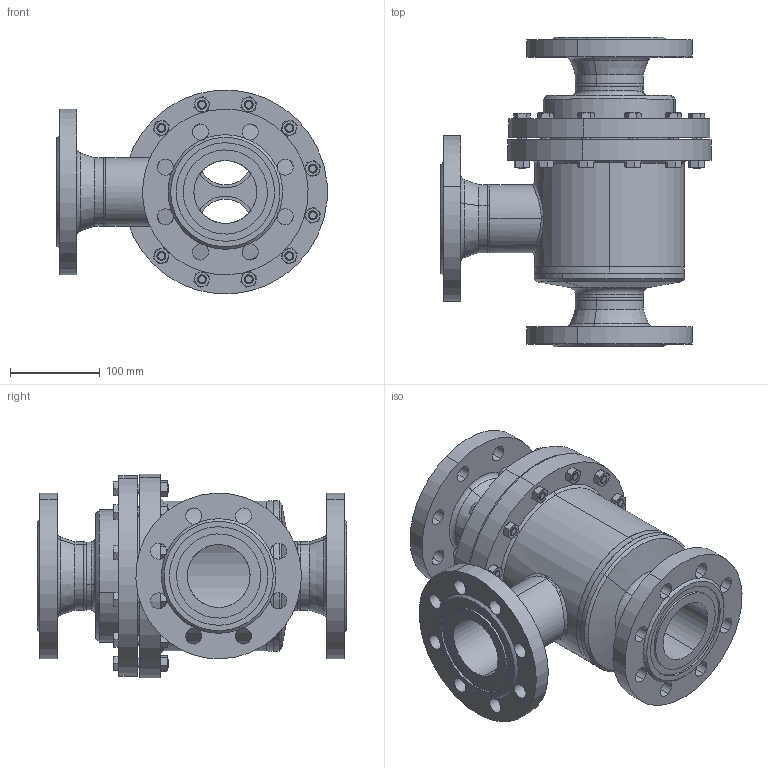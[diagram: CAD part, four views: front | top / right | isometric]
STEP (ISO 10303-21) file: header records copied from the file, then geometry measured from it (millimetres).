
FILE_DESCRIPTION (( 'STEP AP214' ), '1' );
FILE_NAME ('TR47020B17-DN65_DIN_PS25.STEP', '2005-08-10T11:24:30', ( 'Herr Grams' ), ( 'AWP GmbH' ), 'SwSTEP 2.0', 'SolidWorks 2002296', '' );
FILE_SCHEMA (( 'AUTOMOTIVE_DESIGN' ));
Length unit declared in the file: millimetre
Products named in the file (21): TR47020B17-DN65_DIN_PS25; TR65-1_Standard; TR65-2_Standard; TR65-3_Standard; TR47000B17-DN65_R1_PS25_Standard; Andruckplatte47050-17-DN65-80_Standard; Deckel47000B17_DN65_PS25_R1_Standard; Führungsring47050-17-DN65-80_Standard; Geh-kpl47000B17-DN65_PS25_R1_Standard; Boden47000E_DN65-100_PS40_DN 65; Geh47000E17_DN65_PS40_R1_Standard; Kopfring47000E17_DN65-80_PS40_Standard; bead17-1_Standard; RohrstutzA47000E17-DN65_PS40_R1_Standard; bead17-4_Standard; Kehlnaht17-3_Standard; Kehlnaht17-2_Standard; loser Flansch47000E17_DN65-80_PS40_Standard; Sechskantschraube-DIN933-M10x55_M10x55; Sechskantmutter-DIN934_M10; Flansch-DIN-Nut_PS40_DIN-Flansch-DN065_PS40-Nut
Assembly tree (44 placements, depth 4):
  TR47020B17-DN65_DIN_PS25
    Flansch-DIN-Nut_PS40_DIN-Flansch-DN065_PS40-Nut  x3
    TR47000B17-DN65_R1_PS25_Standard
      Sechskantmutter-DIN934_M10  x12
      Deckel47000B17_DN65_PS25_R1_Standard
      Sechskantschraube-DIN933-M10x55_M10x55  x12
      Geh-kpl47000B17-DN65_PS25_R1_Standard
        Geh47000E17_DN65_PS40_R1_Standard
        Kopfring47000E17_DN65-80_PS40_Standard
        Kehlnaht17-3_Standard
        bead17-4_Standard
        Boden47000E_DN65-100_PS40_DN 65
        bead17-1_Standard
        RohrstutzA47000E17-DN65_PS40_R1_Standard
        Kehlnaht17-2_Standard
      loser Flansch47000E17_DN65-80_PS40_Standard
      Andruckplatte47050-17-DN65-80_Standard
      Führungsring47050-17-DN65-80_Standard
    TR65-3_Standard
    TR65-2_Standard
    TR65-1_Standard
Bounding box: 301.57 x 345.5 x 227.13 mm (x, y, z)
Volume: 3633489.3 mm3; surface area: 875195.8 mm2
Topology: 42 solids, 42 shells, 1355 faces, 3448 edges, 2184 vertices
Faces by surface type: cylinder 628, cone 400, plane 269, bspline 44, torus 14
Entity records: 30233 total; most frequent: CARTESIAN_POINT 21077, DIRECTION 1743, ORIENTED_EDGE 1688, EDGE_CURVE 844, AXIS2_PLACEMENT_3D 751, VERTEX_POINT 540, EDGE_LOOP 452, CIRCLE 380
